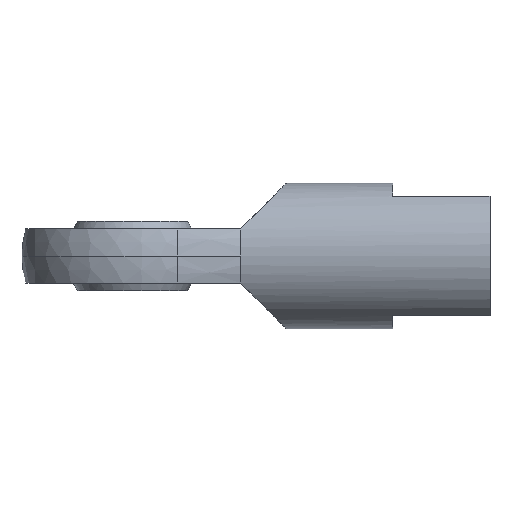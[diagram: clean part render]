
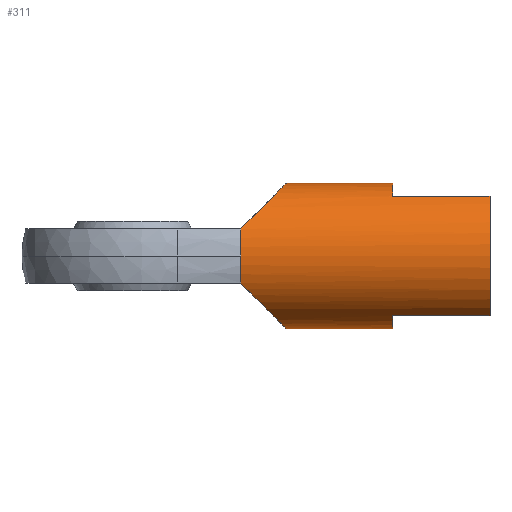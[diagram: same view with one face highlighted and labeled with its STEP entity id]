
A CAD part, front view. The second image highlights one B-rep face of the part: STEP entity #311.
In plain terms, the highlighted cylindrical face has radius 33.5 mm (diameter 67 mm), a partial arc.
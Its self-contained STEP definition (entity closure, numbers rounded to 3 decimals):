
#176 = VERTEX_POINT ( 'NONE', #815 ) ;
#178 = EDGE_CURVE ( 'NONE', #176, #179, #814, .T. ) ;
#179 = VERTEX_POINT ( 'NONE', #809 ) ;
#197 = EDGE_CURVE ( 'NONE', #244, #290, #759, .T. ) ;
#209 = VERTEX_POINT ( 'NONE', #905 ) ;
#214 = EDGE_CURVE ( 'NONE', #215, #246, #910, .T. ) ;
#215 = VERTEX_POINT ( 'NONE', #995 ) ;
#243 = EDGE_CURVE ( 'NONE', #209, #244, #904, .T. ) ;
#244 = VERTEX_POINT ( 'NONE', #900 ) ;
#246 = VERTEX_POINT ( 'NONE', #899 ) ;
#248 = ORIENTED_EDGE ( 'NONE', *, *, #249, .F. ) ;
#249 = EDGE_CURVE ( 'NONE', #313, #209, #897, .T. ) ;
#250 = ORIENTED_EDGE ( 'NONE', *, *, #243, .F. ) ;
#262 = ORIENTED_EDGE ( 'NONE', *, *, #263, .T. ) ;
#263 = EDGE_CURVE ( 'NONE', #313, #176, #925, .T. ) ;
#264 = ORIENTED_EDGE ( 'NONE', *, *, #178, .T. ) ;
#265 = ORIENTED_EDGE ( 'NONE', *, *, #277, .F. ) ;
#274 = ORIENTED_EDGE ( 'NONE', *, *, #275, .F. ) ;
#275 = EDGE_CURVE ( 'NONE', #279, #246, #1020, .T. ) ;
#276 = ORIENTED_EDGE ( 'NONE', *, *, #283, .F. ) ;
#277 = EDGE_CURVE ( 'NONE', #215, #179, #1014, .T. ) ;
#278 = ORIENTED_EDGE ( 'NONE', *, *, #214, .T. ) ;
#279 = VERTEX_POINT ( 'NONE', #1015 ) ;
#283 = EDGE_CURVE ( 'NONE', #284, #279, #987, .T. ) ;
#284 = VERTEX_POINT ( 'NONE', #983 ) ;
#285 = ORIENTED_EDGE ( 'NONE', *, *, #286, .F. ) ;
#286 = EDGE_CURVE ( 'NONE', #287, #284, #982, .T. ) ;
#287 = VERTEX_POINT ( 'NONE', #977 ) ;
#288 = ORIENTED_EDGE ( 'NONE', *, *, #289, .F. ) ;
#289 = EDGE_CURVE ( 'NONE', #290, #287, #976, .T. ) ;
#290 = VERTEX_POINT ( 'NONE', #972 ) ;
#291 = ORIENTED_EDGE ( 'NONE', *, *, #197, .F. ) ;
#311 = ADVANCED_FACE ( 'NONE', ( #1066 ), #1057, .T. ) ;
#312 = EDGE_LOOP ( 'NONE', ( #250, #248, #262, #264, #265, #278, #274, #276, #285, #288, #291 ) ) ;
#313 = VERTEX_POINT ( 'NONE', #1058 ) ;
#755 = DIRECTION ( 'NONE',  ( 0., 0., 1. ) ) ;
#756 = DIRECTION ( 'NONE',  ( 1., 0., 0. ) ) ;
#757 = CARTESIAN_POINT ( 'NONE',  ( 120., 0., 0. ) ) ;
#758 = AXIS2_PLACEMENT_3D ( 'NONE', #757, #756, #755 ) ;
#759 = CIRCLE ( 'NONE', #758, 33.5 ) ;
#809 = CARTESIAN_POINT ( 'NONE',  ( 50., -31.081, -12.5 ) ) ;
#810 = DIRECTION ( 'NONE',  ( 0., 1., 0. ) ) ;
#811 = DIRECTION ( 'NONE',  ( 1., 0., 0. ) ) ;
#812 = CARTESIAN_POINT ( 'NONE',  ( 50., 0., 0. ) ) ;
#813 = AXIS2_PLACEMENT_3D ( 'NONE', #812, #811, #810 ) ;
#814 = CIRCLE ( 'NONE', #813, 33.5 ) ;
#815 = CARTESIAN_POINT ( 'NONE',  ( 50., -33.5, 0. ) ) ;
#897 =( BOUNDED_CURVE ( )  B_SPLINE_CURVE ( 3, ( #1011, #1010, #1009, #1008 ),
 .UNSPECIFIED., .F., .T. ) 
 B_SPLINE_CURVE_WITH_KNOTS ( ( 4, 4 ),
 ( 5.095, 6.283 ),
 .UNSPECIFIED. ) 
 CURVE ( )  GEOMETRIC_REPRESENTATION_ITEM ( )  RATIONAL_B_SPLINE_CURVE ( ( 1., 0.886, 0.886, 1. ) ) 
 REPRESENTATION_ITEM ( '' )  );
#899 = CARTESIAN_POINT ( 'NONE',  ( 120., 0., -33.5 ) ) ;
#900 = CARTESIAN_POINT ( 'NONE',  ( 120., 0., 33.5 ) ) ;
#901 = DIRECTION ( 'NONE',  ( 1., 0., 0. ) ) ;
#902 = VECTOR ( 'NONE', #901, 1000. ) ;
#903 = CARTESIAN_POINT ( 'NONE',  ( 50., 0., 33.5 ) ) ;
#904 = LINE ( 'NONE', #903, #902 ) ;
#905 = CARTESIAN_POINT ( 'NONE',  ( 71., 0., 33.5 ) ) ;
#910 = LINE ( 'NONE', #998, #997 ) ;
#921 = DIRECTION ( 'NONE',  ( 0., 1., 0. ) ) ;
#922 = DIRECTION ( 'NONE',  ( 1., 0., 0. ) ) ;
#923 = CARTESIAN_POINT ( 'NONE',  ( 50., 0., 0. ) ) ;
#924 = AXIS2_PLACEMENT_3D ( 'NONE', #923, #922, #921 ) ;
#925 = CIRCLE ( 'NONE', #924, 33.5 ) ;
#972 = CARTESIAN_POINT ( 'NONE',  ( 120., -19.131, 27.5 ) ) ;
#973 = DIRECTION ( 'NONE',  ( 1., 0., 0. ) ) ;
#974 = VECTOR ( 'NONE', #973, 1000. ) ;
#975 = CARTESIAN_POINT ( 'NONE',  ( 50., -19.131, 27.5 ) ) ;
#976 = LINE ( 'NONE', #975, #974 ) ;
#977 = CARTESIAN_POINT ( 'NONE',  ( 165., -19.131, 27.5 ) ) ;
#978 = DIRECTION ( 'NONE',  ( 0., 0., -1. ) ) ;
#979 = DIRECTION ( 'NONE',  ( 1., 0., 0. ) ) ;
#980 = CARTESIAN_POINT ( 'NONE',  ( 165., 0., 0. ) ) ;
#981 = AXIS2_PLACEMENT_3D ( 'NONE', #980, #979, #978 ) ;
#982 = CIRCLE ( 'NONE', #981, 33.5 ) ;
#983 = CARTESIAN_POINT ( 'NONE',  ( 165., -19.131, -27.5 ) ) ;
#984 = DIRECTION ( 'NONE',  ( -1., 0., 0. ) ) ;
#985 = VECTOR ( 'NONE', #984, 1000. ) ;
#986 = CARTESIAN_POINT ( 'NONE',  ( 50., -19.131, -27.5 ) ) ;
#987 = LINE ( 'NONE', #986, #985 ) ;
#988 = CARTESIAN_POINT ( 'NONE',  ( 50., -31.081, -12.5 ) ) ;
#989 = CARTESIAN_POINT ( 'NONE',  ( 63.097, -25.813, -25.597 ) ) ;
#990 = CARTESIAN_POINT ( 'NONE',  ( 71., -14.116, -33.5 ) ) ;
#995 = CARTESIAN_POINT ( 'NONE',  ( 71., 0., -33.5 ) ) ;
#996 = DIRECTION ( 'NONE',  ( 1., 0., 0. ) ) ;
#997 = VECTOR ( 'NONE', #996, 1000. ) ;
#998 = CARTESIAN_POINT ( 'NONE',  ( 50., 0., -33.5 ) ) ;
#1008 = CARTESIAN_POINT ( 'NONE',  ( 71., 0., 33.5 ) ) ;
#1009 = CARTESIAN_POINT ( 'NONE',  ( 71., -14.116, 33.5 ) ) ;
#1010 = CARTESIAN_POINT ( 'NONE',  ( 63.097, -25.813, 25.597 ) ) ;
#1011 = CARTESIAN_POINT ( 'NONE',  ( 50., -31.081, 12.5 ) ) ;
#1013 = CARTESIAN_POINT ( 'NONE',  ( 71., 0., -33.5 ) ) ;
#1014 =( BOUNDED_CURVE ( )  B_SPLINE_CURVE ( 3, ( #1013, #990, #989, #988 ),
 .UNSPECIFIED., .F., .F. ) 
 B_SPLINE_CURVE_WITH_KNOTS ( ( 4, 4 ),
 ( 0., 1.188 ),
 .UNSPECIFIED. ) 
 CURVE ( )  GEOMETRIC_REPRESENTATION_ITEM ( )  RATIONAL_B_SPLINE_CURVE ( ( 1., 0.886, 0.886, 1. ) ) 
 REPRESENTATION_ITEM ( '' )  );
#1015 = CARTESIAN_POINT ( 'NONE',  ( 120., -19.131, -27.5 ) ) ;
#1016 = DIRECTION ( 'NONE',  ( 0., 0., 1. ) ) ;
#1017 = DIRECTION ( 'NONE',  ( 1., 0., 0. ) ) ;
#1018 = CARTESIAN_POINT ( 'NONE',  ( 120., 0., 0. ) ) ;
#1019 = AXIS2_PLACEMENT_3D ( 'NONE', #1018, #1017, #1016 ) ;
#1020 = CIRCLE ( 'NONE', #1019, 33.5 ) ;
#1055 = DIRECTION ( 'NONE',  ( 0., 0., -1. ) ) ;
#1056 = AXIS2_PLACEMENT_3D ( 'NONE', #1103, #1104, #1055 ) ;
#1057 = CYLINDRICAL_SURFACE ( 'NONE', #1056, 33.5 ) ;
#1058 = CARTESIAN_POINT ( 'NONE',  ( 50., -31.081, 12.5 ) ) ;
#1066 = FACE_OUTER_BOUND ( 'NONE', #312, .T. ) ;
#1103 = CARTESIAN_POINT ( 'NONE',  ( 50., 0., 0. ) ) ;
#1104 = DIRECTION ( 'NONE',  ( 1., 0., 0. ) ) ;
